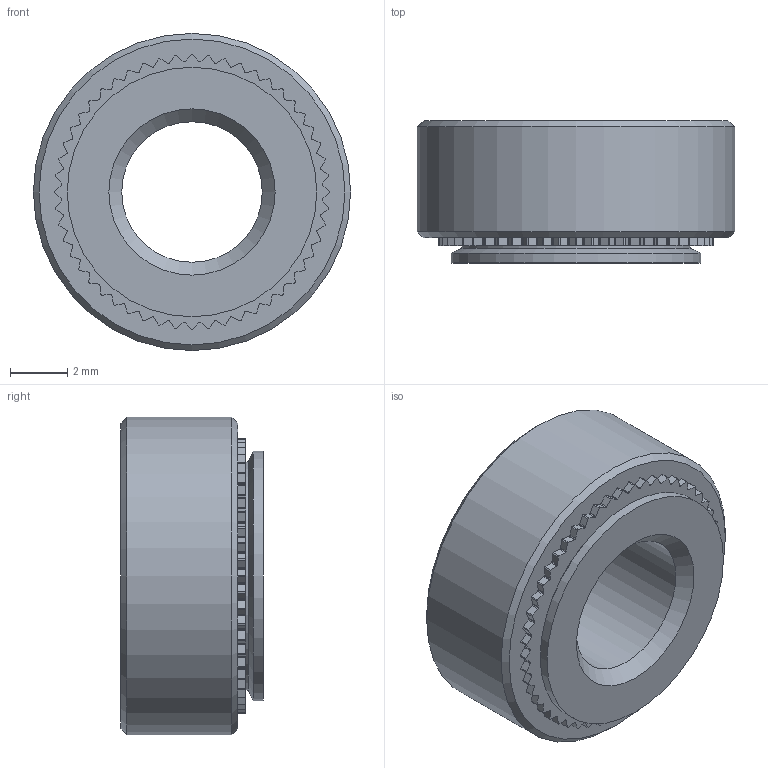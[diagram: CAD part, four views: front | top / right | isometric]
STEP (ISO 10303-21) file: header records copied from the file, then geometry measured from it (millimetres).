
FILE_DESCRIPTION(/* description */ (''),/* implementation_level */ '2;1');
FILE_NAME(/* name */ 'C:\Users\keval.kumar\Desktop\Fastit\Clinch nut\M6\Clinch Nut_M6_00.stp',/* time_stamp */ '2024-03-14T09:41:03+05:00',/* author */ ('keval.kumar'),/* organization */ (''),/* preprocessor_version */ 'ST-DEVELOPER v18.1',/* originating_system */ 'Autodesk Inventor 2022',/* authorisation */ '');
FILE_SCHEMA (('AUTOMOTIVE_DESIGN { 1 0 10303 214 3 1 1 }'));
Length unit declared in the file: millimetre
Products named in the file (1): Clinch Nut_M6_00
Bounding box: 11.1 x 4.97 x 11.1 mm (x, y, z)
Volume: 349.8 mm3; surface area: 401.5 mm2
Topology: 1 solids, 1 shells, 325 faces, 960 edges, 639 vertices
Faces by surface type: cylinder 212, plane 108, cone 5
Full cylindrical faces by diameter (mm): 4.917 x1, 8 x1, 8.73 x1, 11.1 x1
Entity records: 11088 total; most frequent: DIRECTION 2043, CARTESIAN_POINT 1925, ORIENTED_EDGE 1920, EDGE_CURVE 960, AXIS2_PLACEMENT_3D 757, VERTEX_POINT 639, LINE 529, VECTOR 529
